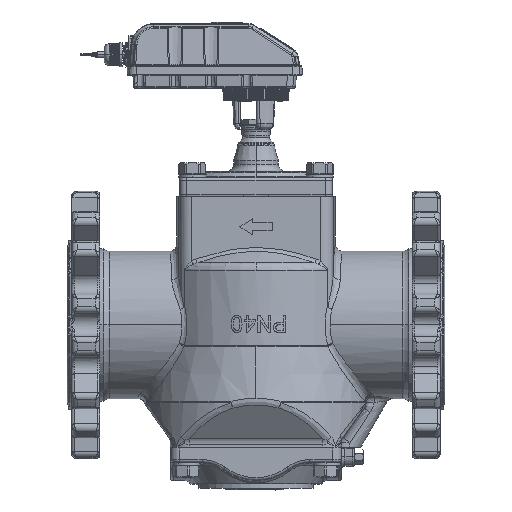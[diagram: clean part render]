
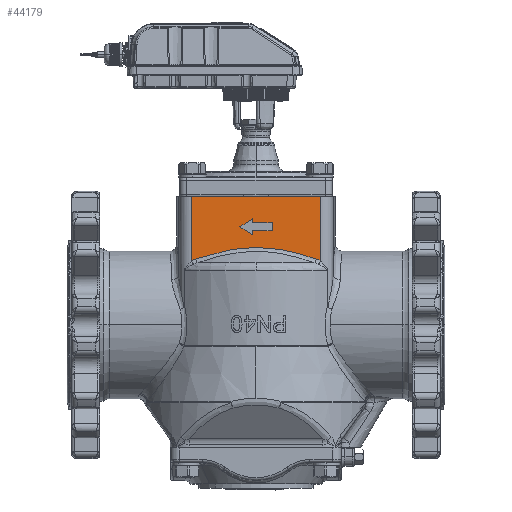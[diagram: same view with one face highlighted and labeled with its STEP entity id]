
A CAD part, top view. The second image highlights one B-rep face of the part: STEP entity #44179.
In plain terms, the highlighted planar face has unit normal (0, 0, 1).
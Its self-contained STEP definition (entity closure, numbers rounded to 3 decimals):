
#107 = CARTESIAN_POINT ( 'NONE',  ( -39.798, 81.383, 84. ) ) ;
#1148 = CARTESIAN_POINT ( 'NONE',  ( 71.797, 145., 84. ) ) ;
#1397 = VERTEX_POINT ( 'NONE', #96194 ) ;
#3418 = ORIENTED_EDGE ( 'NONE', *, *, #53007, .T. ) ;
#3727 = CARTESIAN_POINT ( 'NONE',  ( -28.688, 83.687, 84. ) ) ;
#9557 = FACE_BOUND ( 'NONE', #143752, .T. ) ;
#10455 = FACE_OUTER_BOUND ( 'NONE', #26341, .T. ) ;
#13502 = VERTEX_POINT ( 'NONE', #74692 ) ;
#13735 = VECTOR ( 'NONE', #61526, 1000. ) ;
#15499 = VERTEX_POINT ( 'NONE', #149652 ) ;
#15827 = DIRECTION ( 'NONE',  ( 0., 1., 0. ) ) ;
#16225 = EDGE_CURVE ( 'NONE', #38587, #180613, #47899, .T. ) ;
#16641 = CARTESIAN_POINT ( 'NONE',  ( 70.33, 71.962, 84. ) ) ;
#17455 = CARTESIAN_POINT ( 'NONE',  ( -61.735, 75.105, 84. ) ) ;
#18782 = DIRECTION ( 'NONE',  ( 0.841, -0.541, 0. ) ) ;
#23847 = CARTESIAN_POINT ( 'NONE',  ( 18., 145., 84. ) ) ;
#24357 = VERTEX_POINT ( 'NONE', #45157 ) ;
#26341 = EDGE_LOOP ( 'NONE', ( #114424, #3418, #131963, #165161, #96727, #89320 ) ) ;
#27410 = LINE ( 'NONE', #165363, #42901 ) ;
#32963 = CARTESIAN_POINT ( 'NONE',  ( 45.164, 80.036, 84. ) ) ;
#35766 = DIRECTION ( 'NONE',  ( 0., 1., 0. ) ) ;
#37685 = EDGE_CURVE ( 'NONE', #51520, #1397, #165614, .T. ) ;
#38587 = VERTEX_POINT ( 'NONE', #112257 ) ;
#39510 = LINE ( 'NONE', #95238, #173452 ) ;
#39612 = DIRECTION ( 'NONE',  ( 0., -1., 0. ) ) ;
#40092 = CARTESIAN_POINT ( 'NONE',  ( -67.166, 73.217, 84. ) ) ;
#41998 = AXIS2_PLACEMENT_3D ( 'NONE', #49828, #133829, #48947 ) ;
#42901 = VECTOR ( 'NONE', #124233, 1000. ) ;
#43093 = EDGE_CURVE ( 'NONE', #15499, #170290, #39510, .T. ) ;
#43475 = VERTEX_POINT ( 'NONE', #106880 ) ;
#44179 = ADVANCED_FACE ( 'NONE', ( #10455, #9557 ), #147533, .F. ) ;
#44755 = VERTEX_POINT ( 'NONE', #100289 ) ;
#45145 = LINE ( 'NONE', #169368, #61721 ) ;
#45157 = CARTESIAN_POINT ( 'NONE',  ( 71.797, 143., 84. ) ) ;
#45317 = CARTESIAN_POINT ( 'NONE',  ( -68.779, 72.656, 84. ) ) ;
#46140 = ORIENTED_EDGE ( 'NONE', *, *, #123894, .F. ) ;
#46390 = CARTESIAN_POINT ( 'NONE',  ( 18., 104.5, 84. ) ) ;
#46710 = CARTESIAN_POINT ( 'NONE',  ( 61.707, 75.115, 84. ) ) ;
#47899 = LINE ( 'NONE', #132784, #106853 ) ;
#48947 = DIRECTION ( 'NONE',  ( -1., 0., 0. ) ) ;
#49828 = CARTESIAN_POINT ( 'NONE',  ( -71.797, 145., 84. ) ) ;
#51520 = VERTEX_POINT ( 'NONE', #101106 ) ;
#53007 = EDGE_CURVE ( 'NONE', #24357, #44755, #27410, .T. ) ;
#53108 = CARTESIAN_POINT ( 'NONE',  ( -4., 100., 84. ) ) ;
#55148 = CARTESIAN_POINT ( 'NONE',  ( -4., 145., 84. ) ) ;
#55642 = CARTESIAN_POINT ( 'NONE',  ( -71.797, 71.084, 84. ) ) ;
#55907 = CARTESIAN_POINT ( 'NONE',  ( 2.509, 86.214, 84. ) ) ;
#56801 = CARTESIAN_POINT ( 'NONE',  ( -11.805, 85.856, 84. ) ) ;
#56966 = LINE ( 'NONE', #55148, #142509 ) ;
#58600 = EDGE_CURVE ( 'NONE', #70195, #15499, #56966, .T. ) ;
#58668 = CARTESIAN_POINT ( 'NONE',  ( 68.779, 72.656, 84. ) ) ;
#59917 = CARTESIAN_POINT ( 'NONE',  ( -72.441, 143.998, 84. ) ) ;
#60278 = EDGE_CURVE ( 'NONE', #170290, #13502, #178249, .T. ) ;
#61276 = CARTESIAN_POINT ( 'NONE',  ( 56.219, 76.877, 84. ) ) ;
#61526 = DIRECTION ( 'NONE',  ( -1., 0., 0. ) ) ;
#61721 = VECTOR ( 'NONE', #99034, 1000. ) ;
#63343 = DIRECTION ( 'NONE',  ( -0.841, -0.541, 0. ) ) ;
#68354 = ORIENTED_EDGE ( 'NONE', *, *, #118092, .F. ) ;
#69603 = CARTESIAN_POINT ( 'NONE',  ( -67.166, 73.217, 84. ) ) ;
#70195 = VERTEX_POINT ( 'NONE', #53108 ) ;
#70506 = CARTESIAN_POINT ( 'NONE',  ( 11.198, 85.829, 84. ) ) ;
#73208 = CARTESIAN_POINT ( 'NONE',  ( -45.313, 79.996, 84. ) ) ;
#74495 = CARTESIAN_POINT ( 'NONE',  ( -67.166, 73.217, 84. ) ) ;
#74656 = ORIENTED_EDGE ( 'NONE', *, *, #16225, .F. ) ;
#74692 = CARTESIAN_POINT ( 'NONE',  ( 18., 113.5, 84. ) ) ;
#78930 = LINE ( 'NONE', #151937, #141135 ) ;
#83337 = CARTESIAN_POINT ( 'NONE',  ( 5.396, 86.14, 84. ) ) ;
#85121 = CARTESIAN_POINT ( 'NONE',  ( -6.113, 86.193, 84. ) ) ;
#88793 = CARTESIAN_POINT ( 'NONE',  ( 67.166, 73.217, 84. ) ) ;
#89320 = ORIENTED_EDGE ( 'NONE', *, *, #37685, .T. ) ;
#93390 = EDGE_CURVE ( 'NONE', #44755, #138273, #78930, .T. ) ;
#95238 = CARTESIAN_POINT ( 'NONE',  ( -71.797, 104.5, 84. ) ) ;
#95572 = EDGE_CURVE ( 'NONE', #163581, #51520, #122619, .T. ) ;
#96194 = CARTESIAN_POINT ( 'NONE',  ( 71.797, 71.084, 84. ) ) ;
#96727 = ORIENTED_EDGE ( 'NONE', *, *, #95572, .T. ) ;
#98805 = CARTESIAN_POINT ( 'NONE',  ( 28.358, 83.747, 84. ) ) ;
#98937 = LINE ( 'NONE', #1148, #149488 ) ;
#99034 = DIRECTION ( 'NONE',  ( 0., 1., 0. ) ) ;
#100289 = CARTESIAN_POINT ( 'NONE',  ( -71.797, 143., 84. ) ) ;
#101106 = CARTESIAN_POINT ( 'NONE',  ( 67.166, 73.217, 84. ) ) ;
#102630 = LINE ( 'NONE', #146458, #13735 ) ;
#104231 = ORIENTED_EDGE ( 'NONE', *, *, #60278, .F. ) ;
#106853 = VECTOR ( 'NONE', #63343, 1000. ) ;
#106880 = CARTESIAN_POINT ( 'NONE',  ( -4., 113.5, 84. ) ) ;
#109502 = CARTESIAN_POINT ( 'NONE',  ( -70.33, 71.962, 84. ) ) ;
#112257 = CARTESIAN_POINT ( 'NONE',  ( -4., 118., 84. ) ) ;
#112835 = ORIENTED_EDGE ( 'NONE', *, *, #43093, .F. ) ;
#114424 = ORIENTED_EDGE ( 'NONE', *, *, #175357, .F. ) ;
#115564 = ORIENTED_EDGE ( 'NONE', *, *, #58600, .F. ) ;
#118092 = EDGE_CURVE ( 'NONE', #43475, #38587, #45145, .T. ) ;
#118771 = CARTESIAN_POINT ( 'NONE',  ( 67.166, 73.217, 84. ) ) ;
#122619 = B_SPLINE_CURVE_WITH_KNOTS ( 'NONE', 3,
 ( #69603, #17455, #139002, #73208, #107, #3727, #170933, #56801, #85121, #55907, #83337, #70506, #125303, #167337, #98805, #154543, #32963, #61276, #46710, #118771 ),
 .UNSPECIFIED., .F., .F.,
 ( 4, 2, 2, 2, 2, 2, 2, 2, 2, 4 ),
 ( 0., 0.017, 0.034, 0.051, 0.068, 0.077, 0.085, 0.102, 0.119, 0.136 ),
 .UNSPECIFIED. ) ;
#123894 = EDGE_CURVE ( 'NONE', #13502, #43475, #102630, .T. ) ;
#124233 = DIRECTION ( 'NONE',  ( -1., 0., 0. ) ) ;
#125303 = CARTESIAN_POINT ( 'NONE',  ( 14.083, 85.593, 84. ) ) ;
#125441 = DIRECTION ( 'NONE',  ( 0., -1., 0. ) ) ;
#129892 = CARTESIAN_POINT ( 'NONE',  ( 71.797, 71.084, 84. ) ) ;
#131963 = ORIENTED_EDGE ( 'NONE', *, *, #93390, .T. ) ;
#132784 = CARTESIAN_POINT ( 'NONE',  ( -39.69, 95.056, 84. ) ) ;
#133829 = DIRECTION ( 'NONE',  ( 0., 0., -1. ) ) ;
#137441 = B_SPLINE_CURVE_WITH_KNOTS ( 'NONE', 3,
 ( #170446, #109502, #45317, #40092 ),
 .UNSPECIFIED., .F., .F.,
 ( 4, 4 ),
 ( 0., 0.005 ),
 .UNSPECIFIED. ) ;
#138273 = VERTEX_POINT ( 'NONE', #55642 ) ;
#138726 = EDGE_CURVE ( 'NONE', #180613, #70195, #143047, .T. ) ;
#139002 = CARTESIAN_POINT ( 'NONE',  ( -56.282, 76.857, 84. ) ) ;
#141135 = VECTOR ( 'NONE', #39612, 1000. ) ;
#142509 = VECTOR ( 'NONE', #15827, 1000. ) ;
#143047 = LINE ( 'NONE', #59917, #152716 ) ;
#143752 = EDGE_LOOP ( 'NONE', ( #174357, #74656, #68354, #46140, #104231, #112835, #115564 ) ) ;
#146458 = CARTESIAN_POINT ( 'NONE',  ( -71.797, 113.5, 84. ) ) ;
#147533 = PLANE ( 'NONE',  #41998 ) ;
#149488 = VECTOR ( 'NONE', #125441, 1000. ) ;
#149652 = CARTESIAN_POINT ( 'NONE',  ( -4., 104.5, 84. ) ) ;
#151937 = CARTESIAN_POINT ( 'NONE',  ( -71.797, 145., 84. ) ) ;
#152716 = VECTOR ( 'NONE', #18782, 1000. ) ;
#154037 = EDGE_CURVE ( 'NONE', #138273, #163581, #137441, .T. ) ;
#154543 = CARTESIAN_POINT ( 'NONE',  ( 39.597, 81.433, 84. ) ) ;
#159823 = CARTESIAN_POINT ( 'NONE',  ( -18., 109., 84. ) ) ;
#162867 = DIRECTION ( 'NONE',  ( 1., 0., 0. ) ) ;
#163581 = VERTEX_POINT ( 'NONE', #74495 ) ;
#165161 = ORIENTED_EDGE ( 'NONE', *, *, #154037, .T. ) ;
#165363 = CARTESIAN_POINT ( 'NONE',  ( -71.797, 143., 84. ) ) ;
#165614 = B_SPLINE_CURVE_WITH_KNOTS ( 'NONE', 3,
 ( #88793, #58668, #16641, #129892 ),
 .UNSPECIFIED., .F., .F.,
 ( 4, 4 ),
 ( 0., 0.005 ),
 .UNSPECIFIED. ) ;
#167337 = CARTESIAN_POINT ( 'NONE',  ( 22.687, 84.664, 84. ) ) ;
#169368 = CARTESIAN_POINT ( 'NONE',  ( -4., 145., 84. ) ) ;
#170290 = VERTEX_POINT ( 'NONE', #46390 ) ;
#170446 = CARTESIAN_POINT ( 'NONE',  ( -71.797, 71.084, 84. ) ) ;
#170933 = CARTESIAN_POINT ( 'NONE',  ( -23.093, 84.602, 84. ) ) ;
#173452 = VECTOR ( 'NONE', #162867, 1000. ) ;
#174357 = ORIENTED_EDGE ( 'NONE', *, *, #138726, .F. ) ;
#174969 = VECTOR ( 'NONE', #35766, 1000. ) ;
#175357 = EDGE_CURVE ( 'NONE', #24357, #1397, #98937, .T. ) ;
#178249 = LINE ( 'NONE', #23847, #174969 ) ;
#180613 = VERTEX_POINT ( 'NONE', #159823 ) ;
